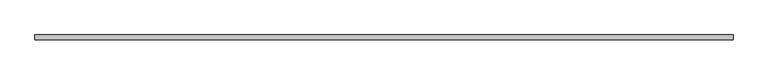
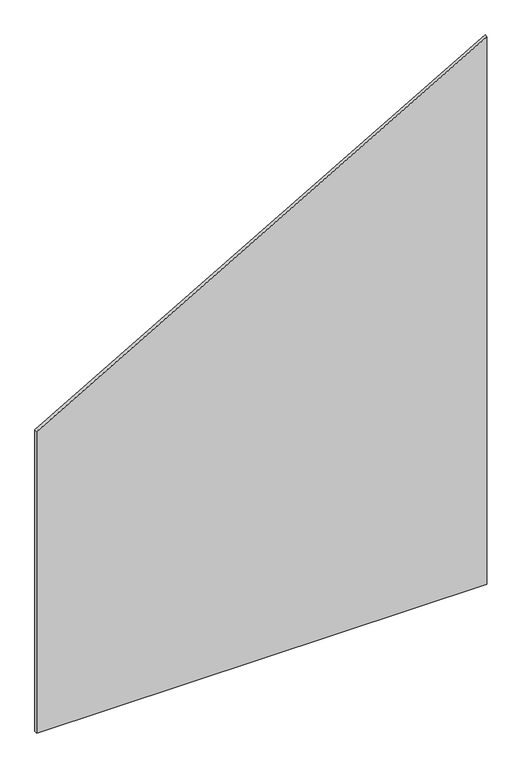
"""IFC4 building model written with IfcOpenShell, lengths in millimetres: plate geometry, 系統嵌板 : 玻璃 1.0cm."""

from ifc_helpers import new_model, si_unit, frame, origin, place, context, project, spatial, polyline, outline, extrude, source, transform, mapped, element, save


def plate_3c9e1d5a(model_context):
    return source(origin(), model_context, "Body", "SweptSolid", [
        extrude(outline(polyline([(0.0, -750.0), (0.0, 750.0), (1928.2032303, 750.0), (1062.1778265, -750.0), (0.0, -750.0)])), frame((0.0, -5.0, 0.0), z_axis=(0.0, 1.0, 0.0), x_axis=(0.0, 0.0, 1.0)), (0.0, 0.0, 1.0), 10.0),
    ])


if __name__ == "__main__":
    model = new_model("IFC4")
    model_context = context("Model", 3, world=origin())
    ifc_project = project(units=[si_unit("LENGTHUNIT", "METRE", prefix="MILLI")], contexts=[model_context])
    site = spatial("IfcSite", under=ifc_project)
    building = spatial("IfcBuilding", under=site)
    placement = place(None, origin())
    plate_shape = plate_3c9e1d5a(model_context)
    element("IfcPlate", 1, ObjectType="系統嵌板 : 玻璃 1.0cm", at=placement, inside=building, context=model_context, shape_type="MappedRepresentation", body=[
        mapped(plate_shape, transform((0.0, 0.0, 0.0), x_axis=(1.0, 0.0, 0.0), y_axis=(0.0, 1.0, 0.0), z_axis=(0.0, 0.0, 1.0))),
    ])
    save(model, "model.ifc")
